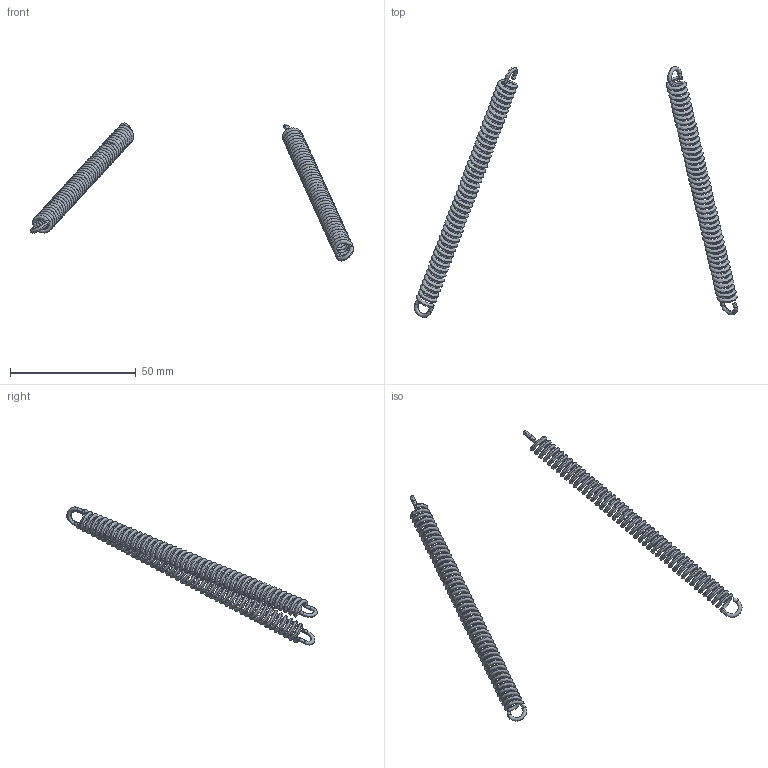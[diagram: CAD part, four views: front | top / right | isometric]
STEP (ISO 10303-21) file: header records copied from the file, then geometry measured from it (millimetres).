
FILE_DESCRIPTION(('CATIA V5 STEP Exchange','CAx-IF Rec.Pracs.--- Model Styling and Organization---1.4--- 2014-01-23'),'2;1');
FILE_NAME('E:\CAD models\dwojnog ris_simplified.stp','2023-08-04T07:42:13+00:00',('none'),('none'),'CATIA Version 5-6 Release 2019 SP6','CATIA V5 STEP AP214 v1','none');
FILE_SCHEMA(('AUTOMOTIVE_DESIGN { 1 0 10303 214 1 1 1 1 }'));
Length unit declared in the file: millimetre
Products named in the file (3): Assem1; Spr_X2_0119017C_X0_yna naci_X2_0105_X0_gowa; Spr_X2_0119017C_X0_yna naci_X2_0105_X0_gowa1
Assembly tree (3 placements, depth 3):
  Assem1
    Spr_X2_0119017C_X0_yna naci_X2_0105_X0_gowa  x2
      Spr_X2_0119017C_X0_yna naci_X2_0105_X0_gowa1
Bounding box: 128.4 x 99.53 x 54.8 mm (x, y, z)
Surface area: 8840.7 mm2 (no closed solid volume)
Topology: 0 solids, 2 shells, 46 faces, 112 edges, 62 vertices
Faces by surface type: revolution 16, extrusion 16, sphere 6, bspline 4, plane 4
Entity records: 28586 total; most frequent: CARTESIAN_POINT 28116, ORIENTED_EDGE 104, DIRECTION 54, EDGE_CURVE 52, VERTEX_POINT 31, ADVANCED_FACE 23, EDGE_LOOP 23, FACE_OUTER_BOUND 23
